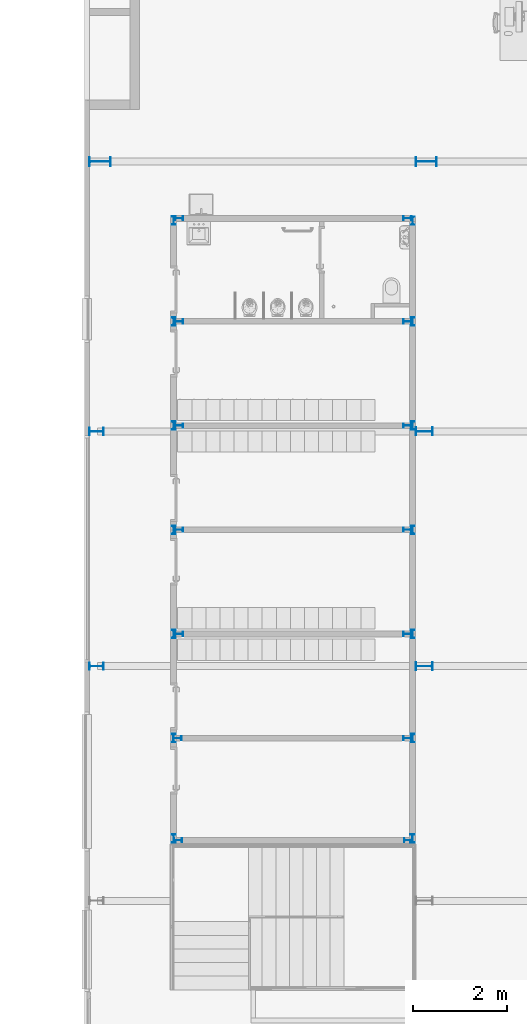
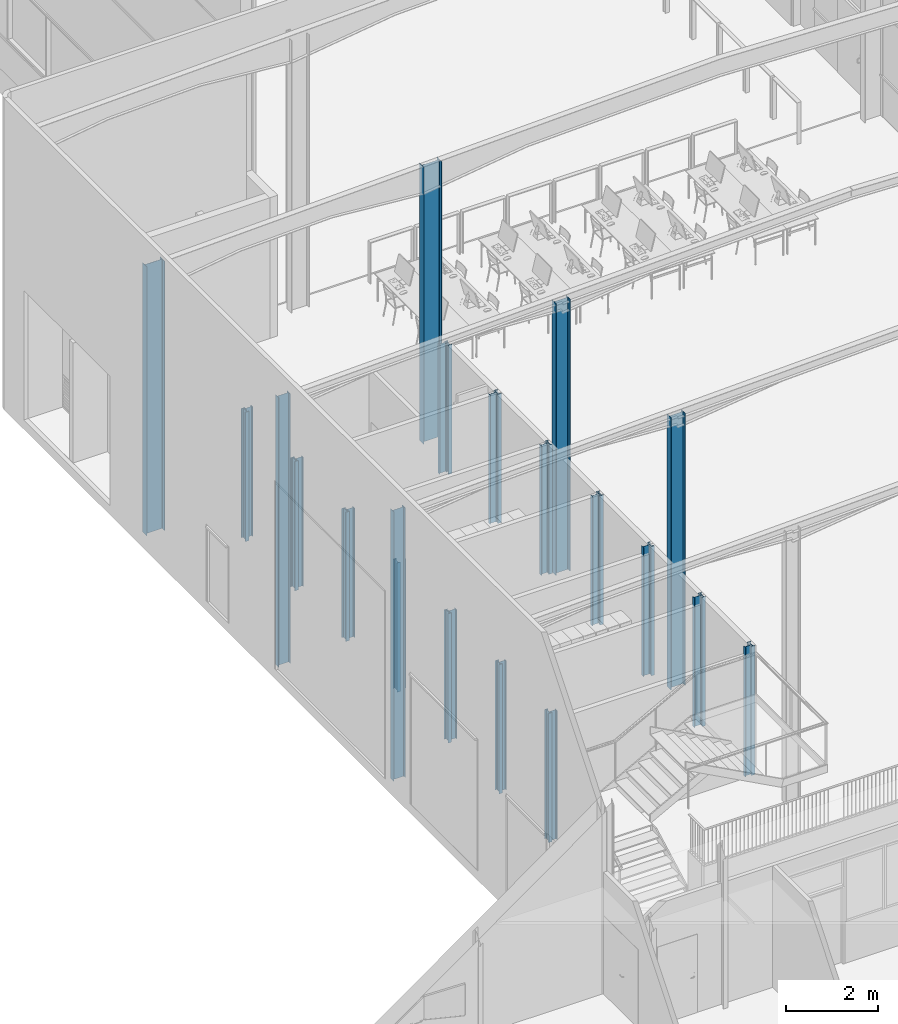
# One storey, part 4 of 137: 34 columns.
"""IFC2X3 building model written with IfcOpenShell, lengths in centimetres."""

from ifc_helpers import new_model, entity, si_unit, converted_unit, derived_unit, direction, frame, frame_2d, origin, place, context, subcontext, project, spatial, polyline, circle_curve, parameter, trimmed, segment, composite_curve, i_section, outline, extrude, source, transform, mapped, material, type_object, type_shapes, element, save


model = new_model("IFC2X3")

# Units and contexts
model_context = context("Model", 3, precision=0.001, world=origin(), true_north=direction((6.12303176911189e-17, 1.0)))
body_context = subcontext(model_context, "Body", "Model", "MODEL_VIEW")
ifc_project = project(units=[si_unit("LENGTHUNIT", "METRE", prefix="CENTI"), si_unit("AREAUNIT", "SQUARE_METRE"), si_unit("VOLUMEUNIT", "CUBIC_METRE"), converted_unit("PLANEANGLEUNIT", "DEGREE", entity("IfcRatioMeasure", 0.0174532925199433), si_unit("PLANEANGLEUNIT", "RADIAN"), dimensions=[0, 0, 0, 0, 0, 0, 0]), si_unit("MASSUNIT", "GRAM", prefix="KILO"), si_unit("TIMEUNIT", "SECOND"), si_unit("FREQUENCYUNIT", "HERTZ"), si_unit("THERMODYNAMICTEMPERATUREUNIT", "DEGREE_CELSIUS"), derived_unit("THERMALTRANSMITTANCEUNIT", [(si_unit("MASSUNIT", "GRAM", prefix="KILO"), 1), (si_unit("THERMODYNAMICTEMPERATUREUNIT", "KELVIN"), -1), (si_unit("TIMEUNIT", "SECOND"), -3)]), derived_unit("VOLUMETRICFLOWRATEUNIT", [(si_unit("LENGTHUNIT", "METRE"), 3), (si_unit("TIMEUNIT", "SECOND"), -1)]), si_unit("ELECTRICCURRENTUNIT", "AMPERE"), si_unit("ELECTRICVOLTAGEUNIT", "VOLT"), si_unit("POWERUNIT", "WATT"), si_unit("FORCEUNIT", "NEWTON", prefix="KILO"), si_unit("ILLUMINANCEUNIT", "LUX"), si_unit("LUMINOUSFLUXUNIT", "LUMEN"), si_unit("LUMINOUSINTENSITYUNIT", "CANDELA"), derived_unit("USERDEFINED", [(si_unit("MASSUNIT", "GRAM", prefix="KILO"), -1), (si_unit("LENGTHUNIT", "METRE"), -2), (si_unit("TIMEUNIT", "SECOND"), 3), (si_unit("LUMINOUSFLUXUNIT", "LUMEN"), 1)]), derived_unit("LINEARVELOCITYUNIT", [(si_unit("LENGTHUNIT", "METRE"), 1), (si_unit("TIMEUNIT", "SECOND"), -1)]), si_unit("PRESSUREUNIT", "PASCAL"), derived_unit("USERDEFINED", [(si_unit("LENGTHUNIT", "METRE"), -2), (si_unit("MASSUNIT", "GRAM", prefix="KILO"), 1), (si_unit("TIMEUNIT", "SECOND"), -2)])], contexts=[model_context])

# Site, building, storey
site_placement = place(None, frame((8.62739174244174, -249.285249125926, 0.0)))
site = spatial("IfcSite", under=ifc_project, at=site_placement, Name="Default", CompositionType="ELEMENT")
building_placement = place(site_placement, origin())
building = spatial("IfcBuilding", under=site, at=building_placement, CompositionType="ELEMENT")
storey_placement = place(building_placement, origin())
storey = spatial("IfcBuildingStorey", under=building, at=storey_placement, Name="RDC", CompositionType="ELEMENT", Elevation=-8.82465566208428e-11)

# Columns
ifc_material = material(Name="Acier, 45-345")
column_type_1 = type_object("IfcColumnType", Name="IPE360", PredefinedType="COLUMN", material=ifc_material)
shared_shape_1 = source(origin(), body_context, "Body", "SweptSolid", [
    extrude(outline(composite_curve([segment(polyline([(17.1, -8.5), (18.0, -8.5)]), True, "CONTINUOUS"), segment(polyline([(18.0, -8.5), (18.0, 8.5)]), True, "CONTINUOUS"), segment(polyline([(18.0, 8.5), (17.1, 8.5)]), True, "CONTINUOUS"), segment(polyline([(17.1, 8.5), (17.1, 1.79999999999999)]), True, "CONTINUOUS"), segment(trimmed(circle_curve(frame_2d((15.6, 1.80000000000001), x_axis=(1.0, 0.0)), 1.50000000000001), [parameter(270.000000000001)], [parameter(0.0)], True, "PARAMETER"), False, "CONTINUOUS"), segment(polyline([(15.6, 0.3), (-15.6, 0.3)]), True, "CONTINUOUS"), segment(trimmed(circle_curve(frame_2d((-15.6, 1.8), x_axis=(0.0, -1.0)), 1.5), [parameter(270.0)], [parameter(0.0)], True, "PARAMETER"), False, "CONTINUOUS"), segment(polyline([(-17.1, 1.8), (-17.1, 8.5)]), True, "CONTINUOUS"), segment(polyline([(-17.1, 8.5), (-18.0, 8.5)]), True, "CONTINUOUS"), segment(polyline([(-18.0, 8.5), (-18.0, -8.5)]), True, "CONTINUOUS"), segment(polyline([(-18.0, -8.5), (-17.1, -8.5)]), True, "CONTINUOUS"), segment(polyline([(-17.1, -8.5), (-17.1, -1.8)]), True, "CONTINUOUS"), segment(trimmed(circle_curve(frame_2d((-15.6, -1.8), x_axis=(-1.0, 0.0)), 1.5), [parameter(269.999999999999)], [parameter(0.0)], True, "PARAMETER"), False, "CONTINUOUS"), segment(polyline([(-15.6, -0.299999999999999), (15.6, -0.299999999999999)]), True, "CONTINUOUS"), segment(trimmed(circle_curve(frame_2d((15.6, -1.79999999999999), x_axis=(0.0, 1.0)), 1.49999999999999), [parameter(269.999999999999)], [parameter(0.0)], True, "PARAMETER"), False, "CONTINUOUS"), segment(polyline([(17.1, -1.8), (17.1, -8.5)]), True, "CONTINUOUS")], self_intersect=False)), frame((0.0, 0.0, 0.0), z_axis=(0.0, 0.0, 1.0), x_axis=(0.0, -1.0, 0.0)), (0.0, 0.0, 1.0), 722.0),
])
type_shapes(column_type_1, [shared_shape_1])
for number, where, z_axis, x_axis in (
    (1, (1563.90482780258, 2361.98020806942, 0.0), (0.0, 0.0, 1.0), (0.0, -1.0, 0.0)),
    (2, (1563.90482780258, 1861.98020806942, 0.0), (0.0, 0.0, 1.0), (0.0, -1.0, 0.0)),
):
    element("IfcColumn", number, at=place(storey_placement, frame(where, z_axis=z_axis, x_axis=x_axis)), inside=storey, type_object=column_type_1, material=ifc_material, Name="IPE-360-170:IPE360", ObjectType="IPE360", context=body_context, shape_type="MappedRepresentation", body=[
        mapped(shared_shape_1, transform((0.0, 0.0, 0.0), scale=1.0)),
    ])
column_type_2 = type_object("IfcColumnType", Name="IPE 300", PredefinedType="COLUMN", material=ifc_material)
shared_shape_2 = source(origin(), body_context, "Body", "SweptSolid", [
    extrude(outline(composite_curve([segment(polyline([(14.1, -7.5), (15.0, -7.5)]), True, "CONTINUOUS"), segment(polyline([(15.0, -7.5), (15.0, 7.5)]), True, "CONTINUOUS"), segment(polyline([(15.0, 7.5), (14.1, 7.5)]), True, "CONTINUOUS"), segment(polyline([(14.1, 7.5), (14.1, 1.8)]), True, "CONTINUOUS"), segment(trimmed(circle_curve(frame_2d((12.6, 1.8), x_axis=(1.0, 0.0)), 1.5), [parameter(270.0)], [parameter(0.0)], True, "PARAMETER"), False, "CONTINUOUS"), segment(polyline([(12.6, 0.300000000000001), (-12.6, 0.300000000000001)]), True, "CONTINUOUS"), segment(trimmed(circle_curve(frame_2d((-12.6, 1.8), x_axis=(0.0, -1.0)), 1.5), [parameter(270.0)], [parameter(0.0)], True, "PARAMETER"), False, "CONTINUOUS"), segment(polyline([(-14.1, 1.8), (-14.1, 7.5)]), True, "CONTINUOUS"), segment(polyline([(-14.1, 7.5), (-15.0, 7.5)]), True, "CONTINUOUS"), segment(polyline([(-15.0, 7.5), (-15.0, -7.5)]), True, "CONTINUOUS"), segment(polyline([(-15.0, -7.5), (-14.1, -7.5)]), True, "CONTINUOUS"), segment(polyline([(-14.1, -7.5), (-14.1, -1.8)]), True, "CONTINUOUS"), segment(trimmed(circle_curve(frame_2d((-12.6, -1.8), x_axis=(-1.0, 0.0)), 1.5), [parameter(269.999999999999)], [parameter(0.0)], True, "PARAMETER"), False, "CONTINUOUS"), segment(polyline([(-12.6, -0.3), (12.6, -0.3)]), True, "CONTINUOUS"), segment(trimmed(circle_curve(frame_2d((12.6, -1.8), x_axis=(0.0, 1.0)), 1.5), [parameter(270.0)], [parameter(0.0)], True, "PARAMETER"), False, "CONTINUOUS"), segment(polyline([(14.1, -1.8), (14.1, -7.5)]), True, "CONTINUOUS")], self_intersect=False)), frame((0.0, 0.0, 0.0), z_axis=(0.0, 0.0, 1.0), x_axis=(0.0, -1.0, 0.0)), (0.0, 0.0, 1.0), 714.699999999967),
])
type_shapes(column_type_2, [shared_shape_2])
for number, where, z_axis, x_axis in (
    (3, (865.904606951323, 2361.98020806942, 0.0), (0.0, 0.0, 1.0), (0.0, -1.0, 0.0)),
    (4, (865.904606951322, 1861.98020806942, 0.0), (0.0, 0.0, 1.0), (0.0, -1.0, 0.0)),
):
    element("IfcColumn", number, at=place(storey_placement, frame(where, z_axis=z_axis, x_axis=x_axis)), inside=storey, type_object=column_type_2, material=ifc_material, Name="IPE-300-150:IPE 300", ObjectType="IPE 300", context=body_context, shape_type="MappedRepresentation", body=[
        mapped(shared_shape_2, transform((0.0, 0.0, 0.0), scale=1.0)),
    ])
column_type_3 = type_object("IfcColumnType", Name="IPE 180", PredefinedType="COLUMN", material=ifc_material)
shared_shape_3 = source(origin(), body_context, "Body", "SweptSolid", [
    extrude(outline(composite_curve([segment(polyline([(8.1, -4.5), (9.0, -4.5)]), True, "CONTINUOUS"), segment(polyline([(9.0, -4.5), (9.0, 4.5)]), True, "CONTINUOUS"), segment(polyline([(9.0, 4.5), (8.1, 4.5)]), True, "CONTINUOUS"), segment(polyline([(8.1, 4.5), (8.1, 1.8)]), True, "CONTINUOUS"), segment(trimmed(circle_curve(frame_2d((6.6, 1.8), x_axis=(1.0, 0.0)), 1.5), [parameter(270.0)], [parameter(0.0)], True, "PARAMETER"), False, "CONTINUOUS"), segment(polyline([(6.60000000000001, 0.300000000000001), (-6.6, 0.300000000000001)]), True, "CONTINUOUS"), segment(trimmed(circle_curve(frame_2d((-6.6, 1.8), x_axis=(0.0, -1.0)), 1.5), [parameter(270.0)], [parameter(0.0)], True, "PARAMETER"), False, "CONTINUOUS"), segment(polyline([(-8.1, 1.8), (-8.1, 4.5)]), True, "CONTINUOUS"), segment(polyline([(-8.1, 4.5), (-9.0, 4.5)]), True, "CONTINUOUS"), segment(polyline([(-9.0, 4.5), (-9.0, -4.5)]), True, "CONTINUOUS"), segment(polyline([(-9.0, -4.5), (-8.1, -4.5)]), True, "CONTINUOUS"), segment(polyline([(-8.1, -4.5), (-8.1, -1.8)]), True, "CONTINUOUS"), segment(trimmed(circle_curve(frame_2d((-6.6, -1.8), x_axis=(-1.0, 0.0)), 1.5), [parameter(270.0)], [parameter(0.0)], True, "PARAMETER"), False, "CONTINUOUS"), segment(polyline([(-6.6, -0.3), (6.6, -0.3)]), True, "CONTINUOUS"), segment(trimmed(circle_curve(frame_2d((6.6, -1.8), x_axis=(0.0, 1.0)), 1.5), [parameter(270.0)], [parameter(0.0)], True, "PARAMETER"), False, "CONTINUOUS"), segment(polyline([(8.1, -1.8), (8.1, -4.5)]), True, "CONTINUOUS")], self_intersect=False)), frame((0.0, 0.0, 0.0), z_axis=(0.0, 0.0, 1.0), x_axis=(0.0, -1.0, 0.0)), (0.0, 0.0, 1.0), 343.0),
])
type_shapes(column_type_3, [shared_shape_3])
column_1_placement = place(storey_placement, frame((1039.68117879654, 1490.93506182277, 0.0), z_axis=(0.0, 0.0, 1.0), x_axis=(0.0, 1.0, 0.0)))
element("IfcColumn", 5, at=column_1_placement, inside=storey, type_object=column_type_3, material=ifc_material, Name="IPE-180-90:IPE 180", ObjectType="IPE 180", context=body_context, shape_type="MappedRepresentation", body=[
    mapped(shared_shape_3, transform((0.0, 0.0, 0.0), scale=1.0)),
])
column_2_placement = place(storey_placement, frame((1030.27982780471, 1708.48020806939, 0.0)))
element("IfcColumn", 6, at=column_2_placement, inside=storey, type_object=column_type_3, material=ifc_material, Name="IPE-180-90:IPE 180", ObjectType="IPE 180", context=body_context, shape_type="MappedRepresentation", body=[
    mapped(shared_shape_3, transform((0.0, 0.0, 0.0), scale=1.0)),
])
for number, where, z_axis, x_axis, name in (
    (7, (1539.36448547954, 1494.71589534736, 0.0), (0.0, 0.0, 1.0), (-1.0, 0.0, 0.0), "IPE-180-90:IPE 180"),
    (8, (1528.10482780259, 1708.48020806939, 0.0), (0.0, 0.0, 1.0), (0.0, -1.0, 0.0), "IPE-180-90:IPE 180"),
    (9, (1528.10482780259, 1930.48020806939, 0.0), (0.0, 0.0, 1.0), (0.0, -1.0, 0.0), "IPE-180-90:IPE 180"),
    (10, (1041.70482780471, 1930.48020806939, 0.0), (0.0, 0.0, 1.0), (0.0, 1.0, 0.0), "IPE-180-90:IPE 180"),
    (11, (1528.10482780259, 2152.48020806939, 0.0), (0.0, 0.0, 1.0), (0.0, -1.0, 0.0), "IPE-180-90:IPE 180"),
    (12, (1041.70482780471, 2152.48020806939, 0.0), (0.0, 0.0, 1.0), (0.0, 1.0, 0.0), "IPE-180-90:IPE 180"),
    (13, (1528.10482780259, 2374.48020806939, 0.0), (0.0, 0.0, 1.0), (0.0, -1.0, 0.0), "IPE-180-90:IPE 180"),
    (14, (1041.70482780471, 2374.48020806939, 0.0), (0.0, 0.0, 1.0), (0.0, 1.0, 0.0), "IPE-180-90:IPE 180"),
    (15, (1528.10482780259, 2596.48020806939, 0.0), (0.0, 0.0, 1.0), (0.0, -1.0, 0.0), "IPE-180-90:IPE 180"),
    (16, (1041.70482780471, 2596.48020806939, 0.0), (0.0, 0.0, 1.0), (0.0, 1.0, 0.0), "IPE-180-90:IPE 180"),
):
    element("IfcColumn", number, at=place(storey_placement, frame(where, z_axis=z_axis, x_axis=x_axis)), inside=storey, type_object=column_type_3, material=ifc_material, Name=name, ObjectType="IPE 180", context=body_context, shape_type="MappedRepresentation", body=[
        mapped(shared_shape_3, transform((0.0, 0.0, 0.0), scale=1.0)),
    ])
column_3_placement = place(storey_placement, frame((1030.45413929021, 2811.47259746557, 0.0)))
element("IfcColumn", 17, at=column_3_placement, inside=storey, type_object=column_type_3, material=ifc_material, Name="IPE-180-90:IPE 180", ObjectType="IPE 180", context=body_context, shape_type="MappedRepresentation", body=[
    mapped(shared_shape_3, transform((0.0, 0.0, 0.0), scale=1.0)),
])
column_4_placement = place(storey_placement, frame((1528.10482780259, 2816.10520806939, 0.0), z_axis=(0.0, 0.0, 1.0), x_axis=(0.0, -1.0, 0.0)))
element("IfcColumn", 18, at=column_4_placement, inside=storey, type_object=column_type_3, material=ifc_material, Name="IPE-180-90:IPE 180", ObjectType="IPE 180", context=body_context, shape_type="MappedRepresentation", body=[
    mapped(shared_shape_3, transform((0.0, 0.0, 0.0), scale=1.0)),
])
column_type_4 = type_object("IfcColumnType", Name="IPE 450", PredefinedType="COLUMN", material=ifc_material)
shared_shape_4 = source(origin(), body_context, "Body", "SweptSolid", [
    extrude(outline(composite_curve([segment(polyline([(21.6, -9.5), (22.5, -9.5)]), True, "CONTINUOUS"), segment(polyline([(22.5, -9.5), (22.5, 9.5)]), True, "CONTINUOUS"), segment(polyline([(22.5, 9.5), (21.6, 9.5)]), True, "CONTINUOUS"), segment(polyline([(21.6, 9.5), (21.6, 1.79999999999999)]), True, "CONTINUOUS"), segment(trimmed(circle_curve(frame_2d((20.1, 1.79999999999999), x_axis=(1.0, 0.0)), 1.49999999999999), [parameter(269.999999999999)], [parameter(0.0)], True, "PARAMETER"), False, "CONTINUOUS"), segment(polyline([(20.1, 0.3), (-20.1, 0.3)]), True, "CONTINUOUS"), segment(trimmed(circle_curve(frame_2d((-20.1, 1.8), x_axis=(0.0, -1.0)), 1.5), [parameter(270.0)], [parameter(0.0)], True, "PARAMETER"), False, "CONTINUOUS"), segment(polyline([(-21.6, 1.8), (-21.6, 9.5)]), True, "CONTINUOUS"), segment(polyline([(-21.6, 9.5), (-22.5, 9.5)]), True, "CONTINUOUS"), segment(polyline([(-22.5, 9.5), (-22.5, -9.5)]), True, "CONTINUOUS"), segment(polyline([(-22.5, -9.5), (-21.6, -9.5)]), True, "CONTINUOUS"), segment(polyline([(-21.6, -9.5), (-21.6, -1.8)]), True, "CONTINUOUS"), segment(trimmed(circle_curve(frame_2d((-20.1, -1.8), x_axis=(-1.0, 0.0)), 1.5), [parameter(269.999999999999)], [parameter(0.0)], True, "PARAMETER"), False, "CONTINUOUS"), segment(polyline([(-20.1, -0.299999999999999), (20.1, -0.299999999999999)]), True, "CONTINUOUS"), segment(trimmed(circle_curve(frame_2d((20.1, -1.80000000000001), x_axis=(0.0, 1.0)), 1.50000000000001), [parameter(270.0)], [parameter(0.0)], True, "PARAMETER"), False, "CONTINUOUS"), segment(polyline([(21.6, -1.8), (21.6, -9.5)]), True, "CONTINUOUS")], self_intersect=False)), frame((0.0, 0.0, 0.0), z_axis=(0.0, 0.0, 1.0), x_axis=(0.0, -1.0, 0.0)), (0.0, 0.0, 1.0), 735.099999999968),
])
type_shapes(column_type_4, [shared_shape_4])
column_5_placement = place(storey_placement, frame((1568.40482780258, 2936.98020806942, 0.0), z_axis=(0.0, 0.0, 1.0), x_axis=(0.0, -1.0, 0.0)))
element("IfcColumn", 19, at=column_5_placement, inside=storey, type_object=column_type_4, material=ifc_material, Name="IPE-450-190:IPE 450", ObjectType="IPE 450", context=body_context, shape_type="MappedRepresentation", body=[
    mapped(shared_shape_4, transform((0.0, 0.0, 0.0), scale=1.0)),
])
column_type_5 = type_object("IfcColumnType", Name="IPE 450", PredefinedType="COLUMN", material=ifc_material)
shared_shape_5 = source(origin(), body_context, "Body", "SweptSolid", [
    extrude(outline(composite_curve([segment(polyline([(21.6, -9.5), (22.5, -9.5)]), True, "CONTINUOUS"), segment(polyline([(22.5, -9.5), (22.5, 9.5)]), True, "CONTINUOUS"), segment(polyline([(22.5, 9.5), (21.6, 9.5)]), True, "CONTINUOUS"), segment(polyline([(21.6, 9.5), (21.6, 1.79999999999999)]), True, "CONTINUOUS"), segment(trimmed(circle_curve(frame_2d((20.1, 1.79999999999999), x_axis=(1.0, 0.0)), 1.49999999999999), [parameter(269.999999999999)], [parameter(0.0)], True, "PARAMETER"), False, "CONTINUOUS"), segment(polyline([(20.1, 0.3), (-20.1, 0.3)]), True, "CONTINUOUS"), segment(trimmed(circle_curve(frame_2d((-20.1, 1.8), x_axis=(0.0, -1.0)), 1.5), [parameter(270.0)], [parameter(0.0)], True, "PARAMETER"), False, "CONTINUOUS"), segment(polyline([(-21.6, 1.8), (-21.6, 9.5)]), True, "CONTINUOUS"), segment(polyline([(-21.6, 9.5), (-22.5, 9.5)]), True, "CONTINUOUS"), segment(polyline([(-22.5, 9.5), (-22.5, -9.5)]), True, "CONTINUOUS"), segment(polyline([(-22.5, -9.5), (-21.6, -9.5)]), True, "CONTINUOUS"), segment(polyline([(-21.6, -9.5), (-21.6, -1.8)]), True, "CONTINUOUS"), segment(trimmed(circle_curve(frame_2d((-20.1, -1.8), x_axis=(-1.0, 0.0)), 1.5), [parameter(269.999999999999)], [parameter(0.0)], True, "PARAMETER"), False, "CONTINUOUS"), segment(polyline([(-20.1, -0.299999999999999), (20.1, -0.299999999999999)]), True, "CONTINUOUS"), segment(trimmed(circle_curve(frame_2d((20.1, -1.80000000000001), x_axis=(0.0, 1.0)), 1.50000000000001), [parameter(270.0)], [parameter(0.0)], True, "PARAMETER"), False, "CONTINUOUS"), segment(polyline([(21.6, -1.8), (21.6, -9.5)]), True, "CONTINUOUS")], self_intersect=False)), frame((0.0, 0.0, 0.0), z_axis=(0.0, 0.0, 1.0), x_axis=(0.0, -1.0, 0.0)), (0.0, 0.0, 1.0), 714.699999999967),
])
type_shapes(column_type_5, [shared_shape_5])
column_6_placement = place(storey_placement, frame((873.404827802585, 2936.98020806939, 0.0), z_axis=(0.0, 0.0, 1.0), x_axis=(0.0, -1.0, 0.0)))
element("IfcColumn", 20, at=column_6_placement, inside=storey, type_object=column_type_5, material=ifc_material, Name="IPE-450-190:IPE 450", ObjectType="IPE 450", context=body_context, shape_type="MappedRepresentation", body=[
    mapped(shared_shape_5, transform((0.0, 0.0, 0.0), scale=1.0)),
])
column_type_6 = type_object("IfcColumnType", Name="IPE 180", PredefinedType="COLUMN", material=ifc_material)
shared_shape_6 = source(origin(), body_context, "Body", "SweptSolid", [
    extrude(i_section(OverallWidth=9.0, OverallDepth=18.0, WebThickness=0.600000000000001, FlangeThickness=0.9, FilletRadius=1.5, at=frame_2d((0.0, -8.88178419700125e-16), x_axis=(0.0, 1.0))), frame((0.0, 0.0, 0.0), z_axis=(0.0, 0.0, 1.0), x_axis=(0.0, -1.0, 0.0)), (0.0, 0.0, 1.0), 343.0),
])
type_shapes(column_type_6, [shared_shape_6])
column_7_placement = place(storey_placement, frame((1030.38117879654, 1494.53506182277, 0.0)))
element("IfcColumn", 21, at=column_7_placement, inside=storey, type_object=column_type_6, material=ifc_material, Name="IPE-180-90:IPE 180", ObjectType="IPE 180", context=body_context, shape_type="MappedRepresentation", body=[
    mapped(shared_shape_6, transform((0.0, 0.0, 0.0), scale=1.0)),
])
for number, where, z_axis, x_axis, name in (
    (22, (1038.37982780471, 1708.48020806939, 0.0), (0.0, 0.0, 1.0), (0.0, -1.0, 0.0), "IPE-180-90:IPE 180"),
    (23, (1530.06448547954, 1491.11589534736, 0.0), (0.0, 0.0, 1.0), (0.0, 1.0, 0.0), "IPE-180-90:IPE 180"),
    (24, (1539.52982780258, 1708.48020806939, 0.0), (0.0, 0.0, 1.0), (-1.0, 0.0, 0.0), "IPE-180-90:IPE 180"),
    (25, (1539.52982780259, 1930.48020806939, 0.0), (0.0, 0.0, 1.0), (-1.0, 0.0, 0.0), "IPE-180-90:IPE 180"),
):
    element("IfcColumn", number, at=place(storey_placement, frame(where, z_axis=z_axis, x_axis=x_axis)), inside=storey, type_object=column_type_6, material=ifc_material, Name=name, ObjectType="IPE 180", context=body_context, shape_type="MappedRepresentation", body=[
        mapped(shared_shape_6, transform((0.0, 0.0, 0.0), scale=1.0)),
    ])
column_8_placement = place(storey_placement, frame((1030.27982780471, 1930.48020806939, 0.0)))
element("IfcColumn", 26, at=column_8_placement, inside=storey, type_object=column_type_6, material=ifc_material, Name="IPE-180-90:IPE 180", ObjectType="IPE 180", context=body_context, shape_type="MappedRepresentation", body=[
    mapped(shared_shape_6, transform((0.0, 0.0, 0.0), scale=1.0)),
])
column_9_placement = place(storey_placement, frame((1539.52982780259, 2152.48020806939, 0.0), z_axis=(0.0, 0.0, 1.0), x_axis=(-1.0, 0.0, 0.0)))
element("IfcColumn", 27, at=column_9_placement, inside=storey, type_object=column_type_6, material=ifc_material, Name="IPE-180-90:IPE 180", ObjectType="IPE 180", context=body_context, shape_type="MappedRepresentation", body=[
    mapped(shared_shape_6, transform((0.0, 0.0, 0.0), scale=1.0)),
])
column_10_placement = place(storey_placement, frame((1030.27982780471, 2152.48020806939, 0.0)))
element("IfcColumn", 28, at=column_10_placement, inside=storey, type_object=column_type_6, material=ifc_material, Name="IPE-180-90:IPE 180", ObjectType="IPE 180", context=body_context, shape_type="MappedRepresentation", body=[
    mapped(shared_shape_6, transform((0.0, 0.0, 0.0), scale=1.0)),
])
column_11_placement = place(storey_placement, frame((1539.52982780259, 2374.48020806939, 0.0), z_axis=(0.0, 0.0, 1.0), x_axis=(-1.0, 0.0, 0.0)))
element("IfcColumn", 29, at=column_11_placement, inside=storey, type_object=column_type_6, material=ifc_material, Name="IPE-180-90:IPE 180", ObjectType="IPE 180", context=body_context, shape_type="MappedRepresentation", body=[
    mapped(shared_shape_6, transform((0.0, 0.0, 0.0), scale=1.0)),
])
column_12_placement = place(storey_placement, frame((1030.27982780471, 2374.48020806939, 0.0)))
element("IfcColumn", 30, at=column_12_placement, inside=storey, type_object=column_type_6, material=ifc_material, Name="IPE-180-90:IPE 180", ObjectType="IPE 180", context=body_context, shape_type="MappedRepresentation", body=[
    mapped(shared_shape_6, transform((0.0, 0.0, 0.0), scale=1.0)),
])
column_13_placement = place(storey_placement, frame((1539.52982780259, 2596.48020806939, 0.0), z_axis=(0.0, 0.0, 1.0), x_axis=(-1.0, 0.0, 0.0)))
element("IfcColumn", 31, at=column_13_placement, inside=storey, type_object=column_type_6, material=ifc_material, Name="IPE-180-90:IPE 180", ObjectType="IPE 180", context=body_context, shape_type="MappedRepresentation", body=[
    mapped(shared_shape_6, transform((0.0, 0.0, 0.0), scale=1.0)),
])
column_14_placement = place(storey_placement, frame((1030.27982780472, 2596.48020806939, 0.0)))
element("IfcColumn", 32, at=column_14_placement, inside=storey, type_object=column_type_6, material=ifc_material, Name="IPE-180-90:IPE 180", ObjectType="IPE 180", context=body_context, shape_type="MappedRepresentation", body=[
    mapped(shared_shape_6, transform((0.0, 0.0, 0.0), scale=1.0)),
])
for number, where, z_axis, x_axis, name in (
    (33, (1041.70482780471, 2816.10520806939, 0.0), (0.0, 0.0, 1.0), (0.0, -1.0, 0.0), "IPE-180-90:IPE 180"),
    (34, (1539.52982780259, 2810.98020806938, 0.0), (0.0, 0.0, 1.0), (-1.0, 0.0, 0.0), "IPE-180-90:IPE 180"),
):
    element("IfcColumn", number, at=place(storey_placement, frame(where, z_axis=z_axis, x_axis=x_axis)), inside=storey, type_object=column_type_6, material=ifc_material, Name=name, ObjectType="IPE 180", context=body_context, shape_type="MappedRepresentation", body=[
        mapped(shared_shape_6, transform((0.0, 0.0, 0.0), scale=1.0)),
    ])

save(model, "model.ifc")
